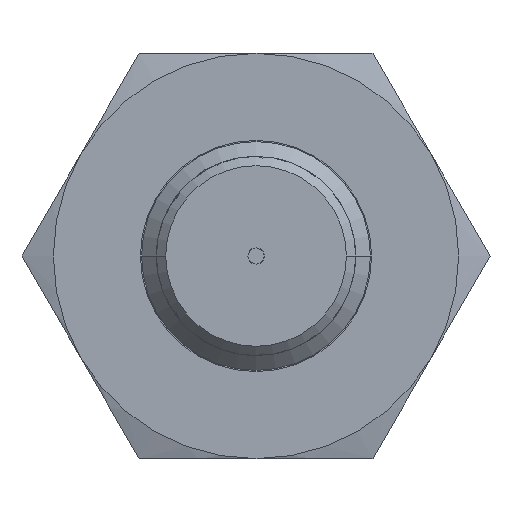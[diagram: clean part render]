
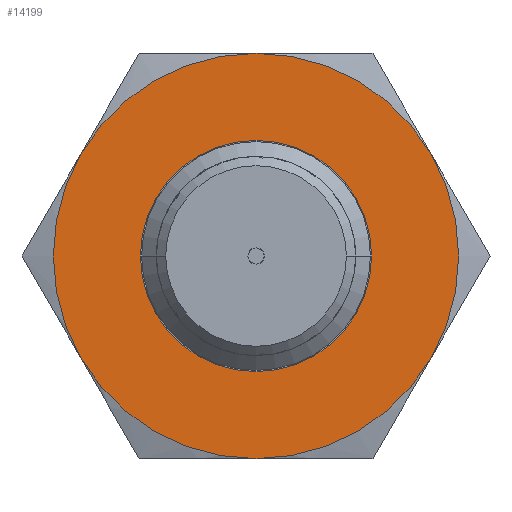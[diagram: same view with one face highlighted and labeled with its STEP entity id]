
A CAD part, left-side view. The second image highlights one B-rep face of the part: STEP entity #14199.
In plain terms, the highlighted free-form (B-spline) face has degree [1, 1] with [2, 2] control points.
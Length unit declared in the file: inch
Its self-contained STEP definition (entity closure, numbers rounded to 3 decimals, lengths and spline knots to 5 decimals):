
#5641=CARTESIAN_POINT('',(-0.2475,0.0,-0.4375));
#5642=VERTEX_POINT('',#5641);
#5676=CARTESIAN_POINT('',(-0.2475,0.,0.4375));
#5677=VERTEX_POINT('',#5676);
#5684=CARTESIAN_POINT('',(-0.2475,0.0,0.0));
#5685=DIRECTION('',(-1.0,0.0,0.0));
#5686=DIRECTION('',(0.0,0.0,-1.0));
#5687=AXIS2_PLACEMENT_3D('',#5684,#5685,#5686);
#5688=CIRCLE('',#5687,0.4375);
#5689=EDGE_CURVE('',#5642,#5677,#5688,.T.);
#6270=CARTESIAN_POINT('',(-0.2475,0.2495,0.0));
#6271=VERTEX_POINT('',#6270);
#6280=CARTESIAN_POINT('',(-0.2475,-0.2495,0.));
#6281=VERTEX_POINT('',#6280);
#6282=CARTESIAN_POINT('',(-0.2475,0.0,0.0));
#6283=DIRECTION('',(-1.0,0.0,0.0));
#6284=DIRECTION('',(0.0,1.0,0.0));
#6285=AXIS2_PLACEMENT_3D('',#6282,#6283,#6284);
#6286=CIRCLE('',#6285,0.2495);
#6287=EDGE_CURVE('',#6271,#6281,#6286,.T.);
#12830=CARTESIAN_POINT('',(-0.2475,0.0,0.0));
#12831=DIRECTION('',(-1.0,0.0,0.0));
#12832=DIRECTION('',(0.0,1.0,0.0));
#12833=AXIS2_PLACEMENT_3D('',#12830,#12831,#12832);
#12834=CIRCLE('',#12833,0.2495);
#12835=EDGE_CURVE('',#6281,#6271,#12834,.T.);
#14172=CARTESIAN_POINT('',(-0.2475,0.0,0.0));
#14173=DIRECTION('',(-1.0,0.0,0.0));
#14174=DIRECTION('',(0.0,0.0,-1.0));
#14175=AXIS2_PLACEMENT_3D('',#14172,#14173,#14174);
#14176=CIRCLE('',#14175,0.4375);
#14177=EDGE_CURVE('',#5677,#5642,#14176,.T.);
#14186=CARTESIAN_POINT('',(-0.2475,0.4375,0.4375));
#14187=CARTESIAN_POINT('',(-0.2475,0.4375,-0.4375));
#14188=CARTESIAN_POINT('',(-0.2475,-0.4375,0.4375));
#14189=CARTESIAN_POINT('',(-0.2475,-0.4375,-0.4375));
#14190=B_SPLINE_SURFACE_WITH_KNOTS('',1,1,((#14186,#14188),(#14187,#14189)),.UNSPECIFIED.,.F.,.F.,.U.,(2,2),(2,2),(0.0,0.875),(0.0,0.875),.UNSPECIFIED.);
#14191=ORIENTED_EDGE('',*,*,#5689,.T.);
#14192=ORIENTED_EDGE('',*,*,#14177,.T.);
#14193=EDGE_LOOP('',(#14191,#14192));
#14194=FACE_OUTER_BOUND('',#14193,.T.);
#14195=ORIENTED_EDGE('',*,*,#6287,.F.);
#14196=ORIENTED_EDGE('',*,*,#12835,.F.);
#14197=EDGE_LOOP('',(#14195,#14196));
#14198=FACE_BOUND('',#14197,.T.);
#14199=ADVANCED_FACE('',(#14194,#14198),#14190,.T.);
